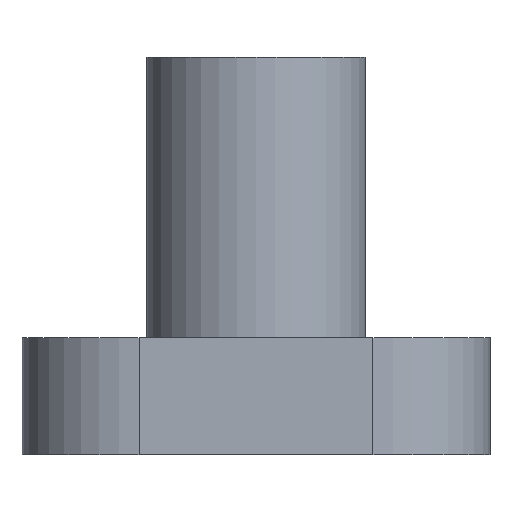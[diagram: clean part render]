
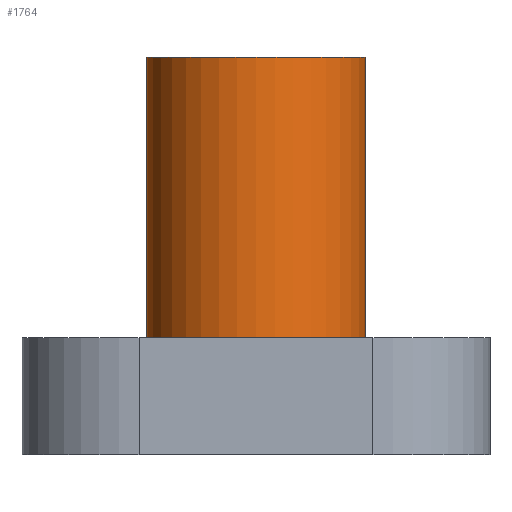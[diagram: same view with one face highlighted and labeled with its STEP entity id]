
A CAD part, left-side view. The second image highlights one B-rep face of the part: STEP entity #1764.
In plain terms, the highlighted cylindrical face has radius 2.8 mm (diameter 5.6 mm), a full revolution.
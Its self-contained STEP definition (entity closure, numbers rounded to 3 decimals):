
#90 = PLANE('',#91);
#91 = AXIS2_PLACEMENT_3D('',#92,#93,#94);
#92 = CARTESIAN_POINT('',(0.,0.,3.));
#93 = DIRECTION('',(0.,0.,1.));
#94 = DIRECTION('',(1.,0.,-0.));
#942 = EDGE_CURVE('',#943,#943,#945,.T.);
#943 = VERTEX_POINT('',#944);
#944 = CARTESIAN_POINT('',(2.8,0.,3.));
#945 = SURFACE_CURVE('',#946,(#951,#958),.PCURVE_S1.);
#946 = CIRCLE('',#947,2.8);
#947 = AXIS2_PLACEMENT_3D('',#948,#949,#950);
#948 = CARTESIAN_POINT('',(0.,0.,3.));
#949 = DIRECTION('',(0.,0.,1.));
#950 = DIRECTION('',(1.,0.,-0.));
#951 = PCURVE('',#90,#952);
#952 = DEFINITIONAL_REPRESENTATION('',(#953),#957);
#953 = CIRCLE('',#954,2.8);
#954 = AXIS2_PLACEMENT_2D('',#955,#956);
#955 = CARTESIAN_POINT('',(0.,0.));
#956 = DIRECTION('',(1.,0.));
#957 = ( GEOMETRIC_REPRESENTATION_CONTEXT(2) 
PARAMETRIC_REPRESENTATION_CONTEXT() REPRESENTATION_CONTEXT('2D SPACE',''
  ) );
#958 = PCURVE('',#959,#964);
#959 = CYLINDRICAL_SURFACE('',#960,2.8);
#960 = AXIS2_PLACEMENT_3D('',#961,#962,#963);
#961 = CARTESIAN_POINT('',(0.,0.,3.));
#962 = DIRECTION('',(0.,0.,1.));
#963 = DIRECTION('',(1.,0.,-0.));
#964 = DEFINITIONAL_REPRESENTATION('',(#965),#969);
#965 = LINE('',#966,#967);
#966 = CARTESIAN_POINT('',(0.,0.));
#967 = VECTOR('',#968,1.);
#968 = DIRECTION('',(1.,0.));
#969 = ( GEOMETRIC_REPRESENTATION_CONTEXT(2) 
PARAMETRIC_REPRESENTATION_CONTEXT() REPRESENTATION_CONTEXT('2D SPACE',''
  ) );
#1764 = ADVANCED_FACE('',(#1765),#959,.T.);
#1765 = FACE_BOUND('',#1766,.T.);
#1766 = EDGE_LOOP('',(#1767,#1796,#1817,#1818));
#1767 = ORIENTED_EDGE('',*,*,#1768,.F.);
#1768 = EDGE_CURVE('',#1769,#1769,#1771,.T.);
#1769 = VERTEX_POINT('',#1770);
#1770 = CARTESIAN_POINT('',(2.8,0.,10.2));
#1771 = SURFACE_CURVE('',#1772,(#1777,#1784),.PCURVE_S1.);
#1772 = CIRCLE('',#1773,2.8);
#1773 = AXIS2_PLACEMENT_3D('',#1774,#1775,#1776);
#1774 = CARTESIAN_POINT('',(0.,0.,10.2));
#1775 = DIRECTION('',(0.,0.,1.));
#1776 = DIRECTION('',(1.,0.,-0.));
#1777 = PCURVE('',#959,#1778);
#1778 = DEFINITIONAL_REPRESENTATION('',(#1779),#1783);
#1779 = LINE('',#1780,#1781);
#1780 = CARTESIAN_POINT('',(0.,7.2));
#1781 = VECTOR('',#1782,1.);
#1782 = DIRECTION('',(1.,0.));
#1783 = ( GEOMETRIC_REPRESENTATION_CONTEXT(2) 
PARAMETRIC_REPRESENTATION_CONTEXT() REPRESENTATION_CONTEXT('2D SPACE',''
  ) );
#1784 = PCURVE('',#1785,#1790);
#1785 = PLANE('',#1786);
#1786 = AXIS2_PLACEMENT_3D('',#1787,#1788,#1789);
#1787 = CARTESIAN_POINT('',(0.,0.,10.2));
#1788 = DIRECTION('',(0.,0.,1.));
#1789 = DIRECTION('',(1.,0.,-0.));
#1790 = DEFINITIONAL_REPRESENTATION('',(#1791),#1795);
#1791 = CIRCLE('',#1792,2.8);
#1792 = AXIS2_PLACEMENT_2D('',#1793,#1794);
#1793 = CARTESIAN_POINT('',(0.,0.));
#1794 = DIRECTION('',(1.,0.));
#1795 = ( GEOMETRIC_REPRESENTATION_CONTEXT(2) 
PARAMETRIC_REPRESENTATION_CONTEXT() REPRESENTATION_CONTEXT('2D SPACE',''
  ) );
#1796 = ORIENTED_EDGE('',*,*,#1797,.F.);
#1797 = EDGE_CURVE('',#943,#1769,#1798,.T.);
#1798 = SEAM_CURVE('',#1799,(#1803,#1810),.PCURVE_S1.);
#1799 = LINE('',#1800,#1801);
#1800 = CARTESIAN_POINT('',(2.8,0.,3.));
#1801 = VECTOR('',#1802,1.);
#1802 = DIRECTION('',(0.,0.,1.));
#1803 = PCURVE('',#959,#1804);
#1804 = DEFINITIONAL_REPRESENTATION('',(#1805),#1809);
#1805 = LINE('',#1806,#1807);
#1806 = CARTESIAN_POINT('',(6.283,-0.));
#1807 = VECTOR('',#1808,1.);
#1808 = DIRECTION('',(0.,1.));
#1809 = ( GEOMETRIC_REPRESENTATION_CONTEXT(2) 
PARAMETRIC_REPRESENTATION_CONTEXT() REPRESENTATION_CONTEXT('2D SPACE',''
  ) );
#1810 = PCURVE('',#959,#1811);
#1811 = DEFINITIONAL_REPRESENTATION('',(#1812),#1816);
#1812 = LINE('',#1813,#1814);
#1813 = CARTESIAN_POINT('',(0.,-0.));
#1814 = VECTOR('',#1815,1.);
#1815 = DIRECTION('',(0.,1.));
#1816 = ( GEOMETRIC_REPRESENTATION_CONTEXT(2) 
PARAMETRIC_REPRESENTATION_CONTEXT() REPRESENTATION_CONTEXT('2D SPACE',''
  ) );
#1817 = ORIENTED_EDGE('',*,*,#942,.T.);
#1818 = ORIENTED_EDGE('',*,*,#1797,.T.);
